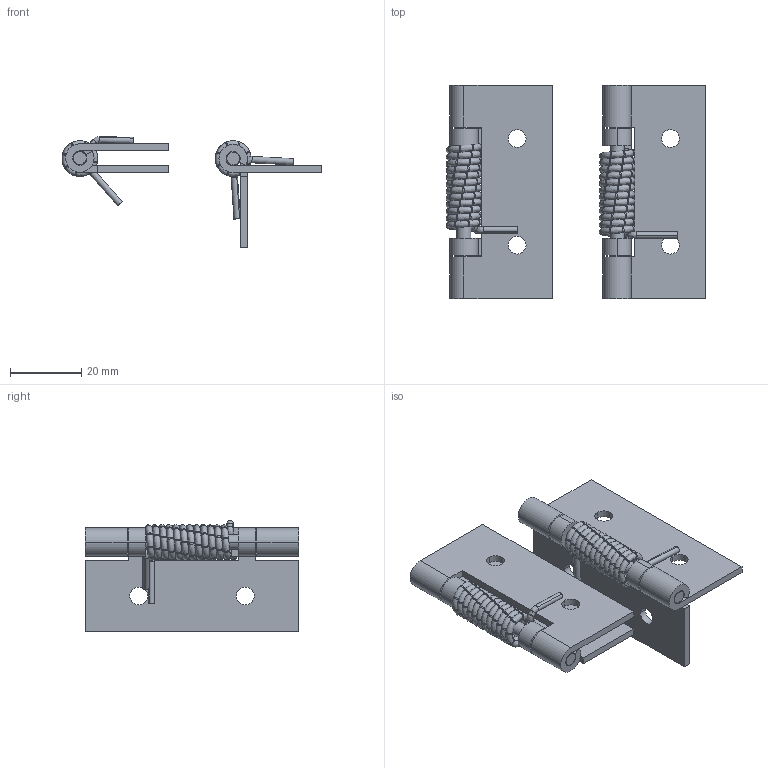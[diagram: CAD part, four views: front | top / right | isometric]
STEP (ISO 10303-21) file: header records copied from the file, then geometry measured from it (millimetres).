
FILE_DESCRIPTION((''),'2;1');
FILE_NAME('6107.01-02.stp','2015-07-16T15:14:53',(''),(''),'Mechanical Desktop 2006','Mechanical Desktop 2006',', , ');
FILE_SCHEMA(('CONFIG_CONTROL_DESIGN'));
Length unit declared in the file: millimetre
Products named in the file (9): 6107; TEIL1; TEIL2; TEIL3; DREHFEDERN - 1.800000 X 10.000000 X 11.750000; ~~~TEIL3; ~DREHFEDERN - 1.800000 X 10.000000 X 11.750000; ~~~TEIL1; ~~~TEIL2
Assembly tree (8 placements, depth 2):
  6107
    TEIL1
    TEIL2
    TEIL3
    DREHFEDERN - 1.800000 X 10.000000 X 11.750000
    ~~~TEIL3
    ~DREHFEDERN - 1.800000 X 10.000000 X 11.750000
    ~~~TEIL1
    ~~~TEIL2
Bounding box: 73.15 x 60 x 31.22 mm (x, y, z)
Volume: 15283.2 mm3; surface area: 19670.7 mm2
Topology: 8 solids, 8 shells, 723 faces, 1723 edges, 1016 vertices
Faces by surface type: cylinder 466, bspline 197, plane 56, cone 4
Entity records: 25978 total; most frequent: CARTESIAN_POINT 8962, DIRECTION 3916, ORIENTED_EDGE 3446, EDGE_CURVE 1723, AXIS2_PLACEMENT_3D 1663, CIRCLE 1124, VERTEX_POINT 1016, EDGE_LOOP 739
